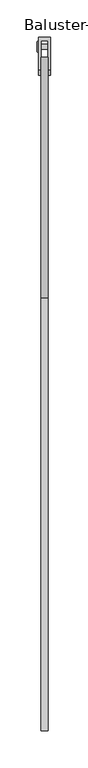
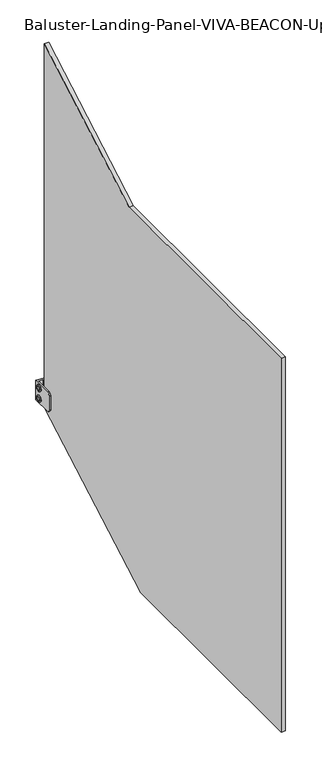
"""IFC4 building model written with IfcOpenShell, lengths in millimetres: railing geometry, Baluster-Landing-Panel-VIVA-BEACON-Upper : Standard_Glass."""

from ifc_helpers import new_model, si_unit, point, frame, origin, place, context, project, spatial, polyline, circle_curve, ellipse_curve, trimmed, outline, extrude, source, transform, mapped, element, save
from ifc_brep_helpers import plane_surface, cylinder_surface, revolved_surface, advanced_brep


def baluster_landing_panel_viva_beacon_upper_standard_glass_00105ca9(model_context):
    return source(origin(), model_context, "Body", "SolidModel", [
        extrude(outline(polyline([(18.4480835, 430.742725), (16.4011194, 427.1972791), (12.3071911, 427.1972791), (10.2602269, 430.742725), (12.3071911, 434.2881709), (16.4011194, 434.2881709), (18.4480835, 430.742725)])), frame((26.0686477, 0.0, 0.0), z_axis=(1.0, 0.0, 0.0), x_axis=(0.0, 1.0, 0.0)), (0.0, 0.0, 1.0), 1.4969696),
        advanced_brep(
        [(41.1327292, 17.8996011, 430.742725), (41.1327292, 10.8087093, 430.742725), (28.4327292, 10.8087093, 430.742725), (28.4327292, 17.8996011, 430.742725), (28.4327292, 6.9463661, 430.742725), (28.4327292, 21.7619443, 430.742725), (27.5656173, 16.0102306, 430.742725), (27.5656173, 12.6980798, 430.742725), (41.1327292, 12.6980798, 430.742725), (41.1327292, 16.0102306, 430.742725), (27.5978844, 21.7619443, 430.742725), (27.5978844, 6.9463661, 430.742725), (26.3166123, 8.2276382, 430.742725), (26.3166123, 20.4806723, 430.742725), (26.3166123, 10.0555597, 430.742725), (26.3166123, 18.6527508, 430.742725), (27.5656173, 10.0555597, 430.742725), (27.5656173, 18.6527508, 430.742725)],
        [
            (0, 1, circle_curve(frame((41.1327292, 14.3541552, 430.742725), z_axis=(-1.0, 0.0, 0.0), x_axis=(0.0, -1.0, 0.0)), 3.5454459)),
            (1, 2),
            (2, 3, circle_curve(frame((28.4327292, 14.3541552, 430.742725), z_axis=(1.0, 0.0, 0.0), x_axis=(0.0, -1.0, 0.0)), 3.5454459)),
            (3, 0),
            (1, 0, circle_curve(frame((41.1327292, 14.3541552, 430.742725), z_axis=(-1.0, 0.0, 0.0), x_axis=(0.0, -1.0, 0.0)), 3.5454459)),
            (3, 2, circle_curve(frame((28.4327292, 14.3541552, 430.742725), z_axis=(1.0, 0.0, 0.0), x_axis=(0.0, -1.0, 0.0)), 3.5454459)),
            (2, 4),
            (4, 5, circle_curve(frame((28.4327292, 14.3541552, 430.742725), z_axis=(1.0, 0.0, 0.0), x_axis=(0.0, -1.0, 0.0)), 7.4077891)),
            (5, 3),
            (5, 4, circle_curve(frame((28.4327292, 14.3541552, 430.742725), z_axis=(1.0, 0.0, 0.0), x_axis=(0.0, -1.0, 0.0)), 7.4077891)),
            (6, 7, circle_curve(frame((27.5656173, 14.3541552, 430.742725), z_axis=(-1.0, 0.0, 0.0), x_axis=(0.0, -1.0, 0.0)), 1.6560754)),
            (7, 8),
            (8, 9, circle_curve(frame((41.1327292, 14.3541552, 430.742725), z_axis=(1.0, 0.0, 0.0), x_axis=(0.0, -1.0, 0.0)), 1.6560754)),
            (9, 6),
            (7, 6, circle_curve(frame((27.5656173, 14.3541552, 430.742725), z_axis=(-1.0, 0.0, 0.0), x_axis=(0.0, -1.0, 0.0)), 1.6560754)),
            (9, 8, circle_curve(frame((41.1327292, 14.3541552, 430.742725), z_axis=(1.0, 0.0, 0.0), x_axis=(0.0, -1.0, 0.0)), 1.6560754)),
            (10, 11, circle_curve(frame((27.5978844, 14.3541552, 430.742725), z_axis=(-1.0, 0.0, 0.0), x_axis=(0.0, -1.0, 0.0)), 7.4077891)),
            (11, 12, circle_curve(frame((27.5978844, 8.2276382, 430.742725), z_axis=(0.0, 0.0, -1.0), x_axis=(0.0, -1.0, 0.0)), 1.281272)),
            (12, 13, circle_curve(frame((26.3166123, 14.3541552, 430.742725), z_axis=(1.0, 0.0, 0.0), x_axis=(0.0, -1.0, 0.0)), 6.1265171)),
            (13, 10, circle_curve(frame((27.5978844, 20.4806723, 430.742725), z_axis=(0.0, 0.0, -1.0), x_axis=(0.0, 1.0, 0.0)), 1.281272)),
            (11, 10, circle_curve(frame((27.5978844, 14.3541552, 430.742725), z_axis=(-1.0, 0.0, 0.0), x_axis=(0.0, -1.0, 0.0)), 7.4077891)),
            (13, 12, circle_curve(frame((26.3166123, 14.3541552, 430.742725), z_axis=(1.0, 0.0, 0.0), x_axis=(0.0, -1.0, 0.0)), 6.1265171)),
            (12, 14),
            (14, 15, circle_curve(frame((26.3166123, 14.3541552, 430.742725), z_axis=(1.0, 0.0, 0.0), x_axis=(0.0, -1.0, 0.0)), 4.2985955)),
            (15, 13),
            (15, 14, circle_curve(frame((26.3166123, 14.3541552, 430.742725), z_axis=(1.0, 0.0, 0.0), x_axis=(0.0, -1.0, 0.0)), 4.2985955)),
            (4, 11),
            (10, 5),
            (8, 1),
            (0, 9),
            (14, 16),
            (16, 17, circle_curve(frame((27.5656173, 14.3541552, 430.742725), z_axis=(1.0, 0.0, 0.0), x_axis=(0.0, -1.0, 0.0)), 4.2985955)),
            (17, 15),
            (17, 16, circle_curve(frame((27.5656173, 14.3541552, 430.742725), z_axis=(1.0, 0.0, 0.0), x_axis=(0.0, -1.0, 0.0)), 4.2985955)),
            (16, 7),
            (6, 17),
        ],
        [
            cylinder_surface(frame((31.9294623, 14.3541552, 430.742725), z_axis=(1.0, 0.0, 0.0), x_axis=(0.0, -1.0, 0.0)), 3.5454459),
            plane_surface(frame((28.4327292, 14.3541552, 430.742725), z_axis=(1.0, 0.0, 0.0), x_axis=(0.0, -1.0, 0.0))),
            revolved_surface(polyline([(41.1327292, 12.698079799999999, 430.742725), (27.5656173, 12.698079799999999, 430.742725)]), (31.9294623, 14.3541552, 430.742725), (1.0, 0.0, 0.0)),
            revolved_surface(trimmed(ellipse_curve(frame((27.5978844, 8.2276382, 430.742725), z_axis=(0.0, 0.0, 1.0), x_axis=(0.0, -1.0, 0.0)), 1.281272, 1.281272), [point((26.3166123, 8.2276382, 430.742725))], [point((27.5978844, 6.9463661, 430.742725))], True, "CARTESIAN"), (31.9294623, 14.3541552, 430.742725), (1.0, 0.0, 0.0)),
            plane_surface(frame((26.3166123, 14.3541552, 430.742725), z_axis=(-1.0, 0.0, 0.0), x_axis=(0.0, -1.0, 0.0))),
            cylinder_surface(frame((31.9294623, 14.3541552, 430.742725), z_axis=(1.0, 0.0, 0.0), x_axis=(0.0, -1.0, 0.0)), 7.4077891),
            plane_surface(frame((41.1327292, 14.3541552, 430.742725), z_axis=(1.0, 0.0, 0.0), x_axis=(0.0, -1.0, 0.0))),
            revolved_surface(polyline([(27.5656173, 10.0555597, 430.742725), (26.3166123, 10.0555597, 430.742725)]), (31.9294623, 14.3541552, 430.742725), (1.0, 0.0, 0.0)),
            plane_surface(frame((27.5656173, 14.3541552, 430.742725), z_axis=(-1.0, 0.0, 0.0), x_axis=(0.0, -1.0, 0.0))),
        ],
        [
            (0, [[1, 2, 3, 4]]),
            (0, [[5, -4, 6, -2]]),
            (1, [[-3, 7, 8, 9]]),
            (1, [[-6, -9, 10, -7]]),
            (2, [[11, 12, 13, 14]]),
            (2, [[15, -14, 16, -12]]),
            (3, [[17, 18, 19, 20]]),
            (3, [[21, -20, 22, -18]]),
            (4, [[-19, 23, 24, 25]]),
            (4, [[-22, -25, 26, -23]]),
            (5, [[-8, 27, -17, 28]]),
            (5, [[-10, -28, -21, -27]]),
            (6, [[-13, 29, -1, 30]]),
            (6, [[-16, -30, -5, -29]]),
            (7, [[-24, 31, 32, 33]]),
            (7, [[-26, -33, 34, -31]]),
            (8, [[-32, 35, -11, 36]]),
            (8, [[-34, -36, -15, -35]]),
        ],
    ),
        advanced_brep(
        [(41.1327292, 17.8996011, 406.136475), (41.1327292, 10.8087093, 406.136475), (28.4327292, 10.8087093, 406.136475), (28.4327292, 17.8996011, 406.136475), (28.4327292, 6.9463661, 406.136475), (28.4327292, 21.7619443, 406.136475), (27.5656173, 16.0102306, 406.136475), (27.5656173, 12.6980798, 406.136475), (41.1327292, 12.6980798, 406.136475), (41.1327292, 16.0102306, 406.136475), (27.5978844, 21.7619443, 406.136475), (27.5978844, 6.9463661, 406.136475), (26.3166123, 8.2276382, 406.136475), (26.3166123, 20.4806723, 406.136475), (26.3166123, 10.0555597, 406.136475), (26.3166123, 18.6527508, 406.136475), (27.5656173, 10.0555597, 406.136475), (27.5656173, 18.6527508, 406.136475)],
        [
            (0, 1, circle_curve(frame((41.1327292, 14.3541552, 406.136475), z_axis=(-1.0, 0.0, 0.0), x_axis=(0.0, -1.0, 0.0)), 3.5454459)),
            (1, 2),
            (2, 3, circle_curve(frame((28.4327292, 14.3541552, 406.136475), z_axis=(1.0, 0.0, 0.0), x_axis=(0.0, -1.0, 0.0)), 3.5454459)),
            (3, 0),
            (1, 0, circle_curve(frame((41.1327292, 14.3541552, 406.136475), z_axis=(-1.0, 0.0, 0.0), x_axis=(0.0, -1.0, 0.0)), 3.5454459)),
            (3, 2, circle_curve(frame((28.4327292, 14.3541552, 406.136475), z_axis=(1.0, 0.0, 0.0), x_axis=(0.0, -1.0, 0.0)), 3.5454459)),
            (2, 4),
            (4, 5, circle_curve(frame((28.4327292, 14.3541552, 406.136475), z_axis=(1.0, 0.0, 0.0), x_axis=(0.0, -1.0, 0.0)), 7.4077891)),
            (5, 3),
            (5, 4, circle_curve(frame((28.4327292, 14.3541552, 406.136475), z_axis=(1.0, 0.0, 0.0), x_axis=(0.0, -1.0, 0.0)), 7.4077891)),
            (6, 7, circle_curve(frame((27.5656173, 14.3541552, 406.136475), z_axis=(-1.0, 0.0, 0.0), x_axis=(0.0, -1.0, 0.0)), 1.6560754)),
            (7, 8),
            (8, 9, circle_curve(frame((41.1327292, 14.3541552, 406.136475), z_axis=(1.0, 0.0, 0.0), x_axis=(0.0, -1.0, 0.0)), 1.6560754)),
            (9, 6),
            (7, 6, circle_curve(frame((27.5656173, 14.3541552, 406.136475), z_axis=(-1.0, 0.0, 0.0), x_axis=(0.0, -1.0, 0.0)), 1.6560754)),
            (9, 8, circle_curve(frame((41.1327292, 14.3541552, 406.136475), z_axis=(1.0, 0.0, 0.0), x_axis=(0.0, -1.0, 0.0)), 1.6560754)),
            (10, 11, circle_curve(frame((27.5978844, 14.3541552, 406.136475), z_axis=(-1.0, 0.0, 0.0), x_axis=(0.0, -1.0, 0.0)), 7.4077891)),
            (11, 12, circle_curve(frame((27.5978844, 8.2276382, 406.136475), z_axis=(0.0, 0.0, -1.0), x_axis=(0.0, -1.0, 0.0)), 1.281272)),
            (12, 13, circle_curve(frame((26.3166123, 14.3541552, 406.136475), z_axis=(1.0, 0.0, 0.0), x_axis=(0.0, -1.0, 0.0)), 6.1265171)),
            (13, 10, circle_curve(frame((27.5978844, 20.4806723, 406.136475), z_axis=(0.0, 0.0, -1.0), x_axis=(0.0, 1.0, 0.0)), 1.281272)),
            (11, 10, circle_curve(frame((27.5978844, 14.3541552, 406.136475), z_axis=(-1.0, 0.0, 0.0), x_axis=(0.0, -1.0, 0.0)), 7.4077891)),
            (13, 12, circle_curve(frame((26.3166123, 14.3541552, 406.136475), z_axis=(1.0, 0.0, 0.0), x_axis=(0.0, -1.0, 0.0)), 6.1265171)),
            (12, 14),
            (14, 15, circle_curve(frame((26.3166123, 14.3541552, 406.136475), z_axis=(1.0, 0.0, 0.0), x_axis=(0.0, -1.0, 0.0)), 4.2985955)),
            (15, 13),
            (15, 14, circle_curve(frame((26.3166123, 14.3541552, 406.136475), z_axis=(1.0, 0.0, 0.0), x_axis=(0.0, -1.0, 0.0)), 4.2985955)),
            (8, 1),
            (0, 9),
            (4, 11),
            (10, 5),
            (14, 16),
            (16, 17, circle_curve(frame((27.5656173, 14.3541552, 406.136475), z_axis=(1.0, 0.0, 0.0), x_axis=(0.0, -1.0, 0.0)), 4.2985955)),
            (17, 15),
            (17, 16, circle_curve(frame((27.5656173, 14.3541552, 406.136475), z_axis=(1.0, 0.0, 0.0), x_axis=(0.0, -1.0, 0.0)), 4.2985955)),
            (16, 7),
            (6, 17),
        ],
        [
            cylinder_surface(frame((31.9294623, 14.3541552, 406.136475), z_axis=(1.0, 0.0, 0.0), x_axis=(0.0, -1.0, 0.0)), 3.5454459),
            plane_surface(frame((28.4327292, 14.3541552, 406.136475), z_axis=(1.0, 0.0, 0.0), x_axis=(0.0, -1.0, 0.0))),
            revolved_surface(polyline([(41.1327292, 12.698079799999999, 406.136475), (27.5656173, 12.698079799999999, 406.136475)]), (31.9294623, 14.3541552, 406.136475), (1.0, 0.0, 0.0)),
            revolved_surface(trimmed(ellipse_curve(frame((27.5978844, 8.2276382, 406.136475), z_axis=(0.0, 0.0, 1.0), x_axis=(0.0, -1.0, 0.0)), 1.281272, 1.281272), [point((26.3166123, 8.2276382, 406.136475))], [point((27.5978844, 6.9463661, 406.136475))], True, "CARTESIAN"), (31.9294623, 14.3541552, 406.136475), (1.0, 0.0, 0.0)),
            plane_surface(frame((26.3166123, 14.3541552, 406.136475), z_axis=(-1.0, 0.0, 0.0), x_axis=(0.0, -1.0, 0.0))),
            plane_surface(frame((41.1327292, 14.3541552, 406.136475), z_axis=(1.0, 0.0, 0.0), x_axis=(0.0, -1.0, 0.0))),
            cylinder_surface(frame((31.9294623, 14.3541552, 406.136475), z_axis=(1.0, 0.0, 0.0), x_axis=(0.0, -1.0, 0.0)), 7.4077891),
            revolved_surface(polyline([(27.5656173, 10.0555597, 406.136475), (26.3166123, 10.0555597, 406.136475)]), (31.9294623, 14.3541552, 406.136475), (1.0, 0.0, 0.0)),
            plane_surface(frame((27.5656173, 14.3541552, 406.136475), z_axis=(-1.0, 0.0, 0.0), x_axis=(0.0, -1.0, 0.0))),
        ],
        [
            (0, [[1, 2, 3, 4]]),
            (0, [[5, -4, 6, -2]]),
            (1, [[-3, 7, 8, 9]]),
            (1, [[-6, -9, 10, -7]]),
            (2, [[11, 12, 13, 14]]),
            (2, [[15, -14, 16, -12]]),
            (3, [[17, 18, 19, 20]]),
            (3, [[21, -20, 22, -18]]),
            (4, [[-19, 23, 24, 25]]),
            (4, [[-22, -25, 26, -23]]),
            (5, [[-13, 27, -1, 28]]),
            (5, [[-16, -28, -5, -27]]),
            (6, [[-8, 29, -17, 30]]),
            (6, [[-10, -30, -21, -29]]),
            (7, [[-24, 31, 32, 33]]),
            (7, [[-26, -33, 34, -31]]),
            (8, [[-32, 35, -11, 36]]),
            (8, [[-34, -36, -15, -35]]),
        ],
    ),
        extrude(outline(polyline([(18.4480835, 406.136475), (16.4011194, 402.5910291), (12.3071911, 402.5910291), (10.2602269, 406.136475), (12.3071911, 409.6819209), (16.4011194, 409.6819209), (18.4480835, 406.136475)])), frame((26.0686477, 0.0, 0.0), z_axis=(1.0, 0.0, 0.0), x_axis=(0.0, 1.0, 0.0)), (0.0, 0.0, 1.0), 1.4969696),
        advanced_brep(
        [(28.4327292, 26.9875, 440.6646), (28.4327292, 26.9875, 396.2146), (28.4327292, -17.4625, 396.2146), (28.4327292, -23.8125, 402.5646), (28.4327292, -23.8125, 434.3146), (28.4327292, -17.4625, 440.6646), (44.3077292, 26.9875, 440.6646), (44.3077292, -17.4625, 440.6646), (44.3077292, -23.8125, 434.3146), (44.3077292, -23.8125, 402.5646), (44.3077292, -17.4625, 396.2146), (44.3077292, 26.9875, 396.2146), (41.1327292, -17.4625, 396.2146), (41.1327292, 22.2694196, 396.2146), (31.6077292, 22.2694196, 396.2146), (31.6077292, -17.4625, 396.2146), (41.1327292, 22.2694196, 440.6646), (31.6077292, 22.2694196, 440.6646), (31.6077292, -17.4625, 440.6646), (31.6077292, -23.8125, 434.3146), (31.6077292, -23.8125, 402.5646), (41.1327292, -23.8125, 402.5646), (41.1327292, -23.8125, 434.3146), (41.1327292, -17.4625, 440.6646)],
        [
            (0, 1),
            (1, 2),
            (2, 3, circle_curve(frame((28.4327292, -17.4625, 402.5646), z_axis=(-1.0, 0.0, 0.0), x_axis=(0.0, -1.0, 0.0)), 6.35)),
            (3, 4),
            (4, 5, circle_curve(frame((28.4327292, -17.4625, 434.3146), z_axis=(-1.0, 0.0, 0.0), x_axis=(0.0, -1.0, 0.0)), 6.35)),
            (5, 0),
            (6, 7),
            (7, 8, circle_curve(frame((44.3077292, -17.4625, 434.3146), z_axis=(1.0, 0.0, 0.0), x_axis=(0.0, -1.0, 0.0)), 6.35)),
            (8, 9),
            (9, 10, circle_curve(frame((44.3077292, -17.4625, 402.5646), z_axis=(1.0, 0.0, 0.0), x_axis=(0.0, -1.0, 0.0)), 6.35)),
            (10, 11),
            (11, 6),
            (0, 6),
            (11, 1),
            (10, 12),
            (12, 13),
            (13, 14),
            (14, 15),
            (15, 2),
            (13, 16),
            (16, 17),
            (17, 14),
            (17, 18),
            (18, 19, circle_curve(frame((31.6077292, -17.4625, 434.3146), z_axis=(1.0, 0.0, 0.0), x_axis=(0.0, -1.0, 0.0)), 6.35)),
            (19, 20),
            (20, 15, circle_curve(frame((31.6077292, -17.4625, 402.5646), z_axis=(1.0, 0.0, 0.0), x_axis=(0.0, -1.0, 0.0)), 6.35)),
            (12, 21, circle_curve(frame((41.1327292, -17.4625, 402.5646), z_axis=(-1.0, 0.0, 0.0), x_axis=(0.0, -1.0, 0.0)), 6.35)),
            (21, 22),
            (22, 23, circle_curve(frame((41.1327292, -17.4625, 434.3146), z_axis=(-1.0, 0.0, 0.0), x_axis=(0.0, -1.0, 0.0)), 6.35)),
            (23, 16),
            (20, 3),
            (9, 21),
            (19, 4),
            (8, 22),
            (18, 5),
            (7, 23),
        ],
        [
            plane_surface(frame((28.4327292, 26.9875, 396.2146), z_axis=(-1.0, 0.0, 0.0), x_axis=(0.0, 0.0, -1.0))),
            plane_surface(frame((44.3077292, 26.9875, 396.2146), z_axis=(1.0, 0.0, 0.0), x_axis=(0.0, 0.0, 1.0))),
            plane_surface(frame((28.4327292, 26.9875, 440.6646), z_axis=(0.0, 1.0, 0.0), x_axis=(1.0, 0.0, 0.0))),
            plane_surface(frame((28.4327292, 26.9875, 396.2146), z_axis=(0.0, 0.0, -1.0), x_axis=(1.0, 0.0, 0.0))),
            plane_surface(frame((41.1327292, 22.2694196, 453.3646), z_axis=(0.0, -1.0, 0.0), x_axis=(0.0, 0.0, -1.0))),
            plane_surface(frame((31.6077292, 22.2694196, 453.3646), z_axis=(1.0, 0.0, 0.0), x_axis=(0.0, 0.0, -1.0))),
            plane_surface(frame((41.1327292, -36.5125, 453.3646), z_axis=(-1.0, 0.0, 0.0), x_axis=(0.0, 0.0, -1.0))),
            cylinder_surface(frame((44.3077292, -17.4625, 402.5646), z_axis=(-1.0, 0.0, 0.0), x_axis=(0.0, -1.0, 0.0)), 6.35),
            plane_surface(frame((28.4327292, -23.8125, 402.5646), z_axis=(0.0, -1.0, 0.0), x_axis=(1.0, 0.0, 0.0))),
            cylinder_surface(frame((44.3077292, -17.4625, 434.3146), z_axis=(-1.0, 0.0, 0.0), x_axis=(0.0, -1.0, 0.0)), 6.35),
            plane_surface(frame((28.4327292, -17.4625, 440.6646), z_axis=(0.0, 0.0, 1.0), x_axis=(1.0, 0.0, 0.0))),
        ],
        [
            (0, [[1, 2, 3, 4, 5, 6]]),
            (1, [[7, 8, 9, 10, 11, 12]]),
            (2, [[-1, 13, -12, 14]]),
            (3, [[-2, -14, -11, 15, 16, 17, 18, 19]]),
            (4, [[20, 21, 22, -17]]),
            (5, [[-22, 23, 24, 25, 26, -18]]),
            (6, [[-20, -16, 27, 28, 29, 30]]),
            (7, [[-3, -19, -26, 31]]),
            (7, [[-10, 32, -27, -15]]),
            (8, [[-4, -31, -25, 33]]),
            (8, [[-9, 34, -28, -32]]),
            (9, [[-5, -33, -24, 35]]),
            (9, [[-8, 36, -29, -34]]),
            (10, [[-6, -35, -23, -21, -30, -36, -7, -13]]),
        ],
    ),
        extrude(outline(polyline([(-323.3806559, 1056.2336), (0.0, 1240.9860017), (0.0, 393.9286), (-367.5905023, 183.918425), (-904.2856444, 183.918425), (-904.2856444, 1056.2336), (-323.3806559, 1056.2336)])), frame((31.6077292, 0.0, 0.0), z_axis=(1.0, 0.0, 0.0), x_axis=(0.0, 1.0, 0.0)), (0.0, 0.0, 1.0), 9.525),
    ])


if __name__ == "__main__":
    model = new_model("IFC4")
    model_context = context("Model", 3, world=origin())
    ifc_project = project(units=[si_unit("LENGTHUNIT", "METRE", prefix="MILLI")], contexts=[model_context])
    site = spatial("IfcSite", under=ifc_project)
    building = spatial("IfcBuilding", under=site)
    placement = place(None, origin())
    baluster_landing_panel_viva_beacon_upper_standard_glass_shape = baluster_landing_panel_viva_beacon_upper_standard_glass_00105ca9(model_context)
    element("IfcRailing", 1, ObjectType="Baluster-Landing-Panel-VIVA-BEACON-Upper : Standard_Glass", at=placement, inside=building, context=model_context, shape_type="MappedRepresentation", body=[
        mapped(baluster_landing_panel_viva_beacon_upper_standard_glass_shape, transform((0.0, 0.0, 0.0), x_axis=(1.0, 0.0, 0.0), y_axis=(0.0, 1.0, 0.0), z_axis=(0.0, 0.0, 1.0))),
    ])
    save(model, "model.ifc")
